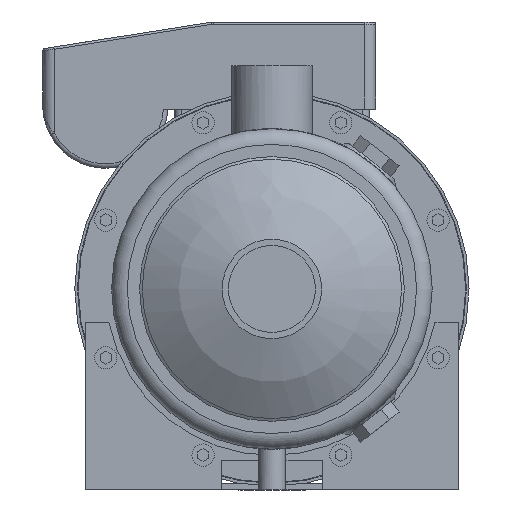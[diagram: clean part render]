
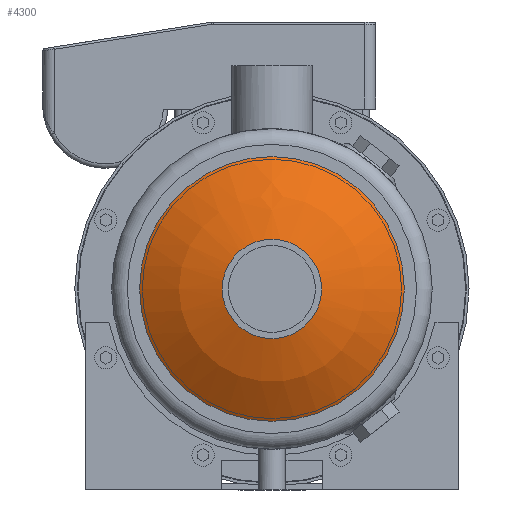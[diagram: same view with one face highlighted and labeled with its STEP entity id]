
A CAD part, left-side view. The second image highlights one B-rep face of the part: STEP entity #4300.
In plain terms, the highlighted spherical face has radius 100 mm.
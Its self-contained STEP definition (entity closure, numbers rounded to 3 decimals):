
#59=SPHERICAL_SURFACE('',#5717,100.);
#972=ORIENTED_EDGE('',*,*,#2147,.T.);
#973=ORIENTED_EDGE('',*,*,#2146,.F.);
#2146=EDGE_CURVE('',#2738,#2738,#3141,.T.);
#2147=EDGE_CURVE('',#2739,#2739,#3142,.T.);
#2738=VERTEX_POINT('',#7664);
#2739=VERTEX_POINT('',#7667);
#3141=CIRCLE('',#5716,22.25);
#3142=CIRCLE('',#5718,59.25);
#3348=EDGE_LOOP('',(#972));
#3349=EDGE_LOOP('',(#973));
#3747=FACE_BOUND('',#3348,.T.);
#3748=FACE_BOUND('',#3349,.T.);
#4300=ADVANCED_FACE('',(#3747,#3748),#59,.T.);
#5716=AXIS2_PLACEMENT_3D('',#7663,#6248,#6249);
#5717=AXIS2_PLACEMENT_3D('',#7665,#6250,#6251);
#5718=AXIS2_PLACEMENT_3D('',#7666,#6252,#6253);
#6248=DIRECTION('',(-1.,0.,0.));
#6249=DIRECTION('',(0.,0.,1.));
#6250=DIRECTION('',(-1.,0.,0.));
#6251=DIRECTION('',(0.,0.,1.));
#6252=DIRECTION('',(-1.,0.,0.));
#6253=DIRECTION('',(0.,0.,1.));
#7663=CARTESIAN_POINT('',(-163.293,0.,0.));
#7664=CARTESIAN_POINT('',(-163.293,0.,22.25));
#7665=CARTESIAN_POINT('',(-65.8,0.,0.));
#7666=CARTESIAN_POINT('',(-146.357,0.,0.));
#7667=CARTESIAN_POINT('',(-146.357,0.,59.25));
